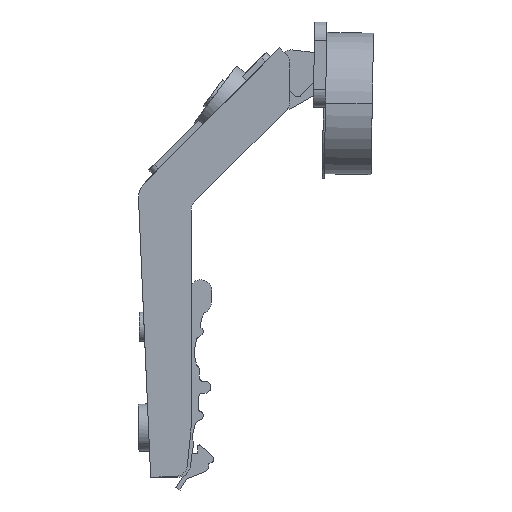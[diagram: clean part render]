
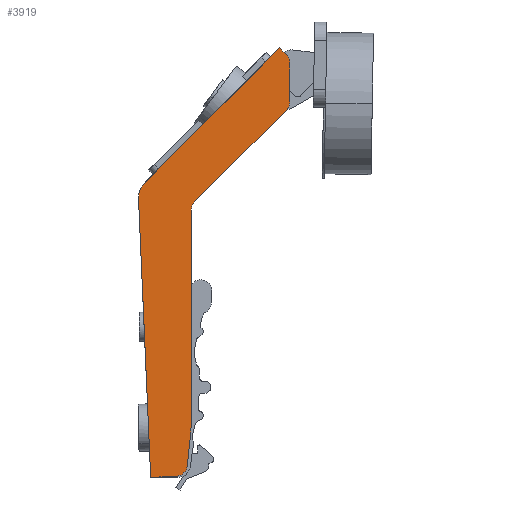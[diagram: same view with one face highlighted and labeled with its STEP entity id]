
A CAD part, left-side view. The second image highlights one B-rep face of the part: STEP entity #3919.
In plain terms, the highlighted planar face has unit normal (-1, 0, 0).
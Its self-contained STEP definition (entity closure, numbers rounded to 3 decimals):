
#138 = CARTESIAN_POINT ( 'NONE',  ( -8.8, -24.257, 47.877 ) ) ;
#146 = CARTESIAN_POINT ( 'NONE',  ( -8.8, 7.953, 24.324 ) ) ;
#148 = CARTESIAN_POINT ( 'NONE',  ( -8.8, 9.95, -44.556 ) ) ;
#176 = VECTOR ( 'NONE', #2760, 1000. ) ;
#189 = AXIS2_PLACEMENT_3D ( 'NONE', #5065, #4287, #2319 ) ;
#202 = DIRECTION ( 'NONE',  ( 0., -1., 0. ) ) ;
#219 = EDGE_CURVE ( 'NONE', #4203, #3314, #786, .T. ) ;
#245 = LINE ( 'NONE', #1821, #3601 ) ;
#299 = EDGE_LOOP ( 'NONE', ( #4960, #3948, #4281, #1999, #3706, #2968, #3711, #2140, #4628, #3186, #1162, #311, #1436, #4689 ) ) ;
#311 = ORIENTED_EDGE ( 'NONE', *, *, #2669, .F. ) ;
#322 = VERTEX_POINT ( 'NONE', #138 ) ;
#337 = CARTESIAN_POINT ( 'NONE',  ( -8.8, -23.379, 59.534 ) ) ;
#508 = DIRECTION ( 'NONE',  ( 0., -0.044, -0.999 ) ) ;
#523 = VECTOR ( 'NONE', #4443, 1000. ) ;
#652 = DIRECTION ( 'NONE',  ( 0., 0., 1. ) ) ;
#704 = DIRECTION ( 'NONE',  ( -1., 0., 0. ) ) ;
#725 = DIRECTION ( 'NONE',  ( 0., -0.707, 0.707 ) ) ;
#786 = LINE ( 'NONE', #5120, #176 ) ;
#795 = CARTESIAN_POINT ( 'NONE',  ( -8.8, 30., -31.046 ) ) ;
#898 = CARTESIAN_POINT ( 'NONE',  ( -8.8, 9.95, -44.556 ) ) ;
#978 = VERTEX_POINT ( 'NONE', #3853 ) ;
#1035 = CARTESIAN_POINT ( 'NONE',  ( -8.8, 0., 21.135 ) ) ;
#1049 = EDGE_CURVE ( 'NONE', #4593, #4674, #4056, .T. ) ;
#1062 = CARTESIAN_POINT ( 'NONE',  ( -8.8, 3.609, -44.28 ) ) ;
#1121 = EDGE_CURVE ( 'NONE', #3191, #4593, #2083, .T. ) ;
#1162 = ORIENTED_EDGE ( 'NONE', *, *, #2897, .T. ) ;
#1369 = VERTEX_POINT ( 'NONE', #2836 ) ;
#1376 = DIRECTION ( 'NONE',  ( 0., 0., 1. ) ) ;
#1436 = ORIENTED_EDGE ( 'NONE', *, *, #2456, .F. ) ;
#1464 = DIRECTION ( 'NONE',  ( -1., 0., 0. ) ) ;
#1521 = CARTESIAN_POINT ( 'NONE',  ( -8.8, 0., -31.046 ) ) ;
#1549 = FACE_OUTER_BOUND ( 'NONE', #299, .T. ) ;
#1632 = EDGE_CURVE ( 'NONE', #3992, #4203, #2344, .T. ) ;
#1670 = CARTESIAN_POINT ( 'NONE',  ( -8.8, 0.164, -34.182 ) ) ;
#1686 = CARTESIAN_POINT ( 'NONE',  ( -8.8, -21.783, 61.13 ) ) ;
#1746 = AXIS2_PLACEMENT_3D ( 'NONE', #3146, #3207, #2347 ) ;
#1748 = CARTESIAN_POINT ( 'NONE',  ( -8.8, 3.929, -41.297 ) ) ;
#1790 = LINE ( 'NONE', #4951, #2599 ) ;
#1821 = CARTESIAN_POINT ( 'NONE',  ( -8.8, 0.945, -41.61 ) ) ;
#1839 = AXIS2_PLACEMENT_3D ( 'NONE', #2610, #2128, #652 ) ;
#1851 = CIRCLE ( 'NONE', #3682, 3. ) ;
#1905 = PLANE ( 'NONE',  #189 ) ;
#1999 = ORIENTED_EDGE ( 'NONE', *, *, #3364, .T. ) ;
#2083 = LINE ( 'NONE', #898, #3429 ) ;
#2097 = VECTOR ( 'NONE', #4485, 1000. ) ;
#2127 = CARTESIAN_POINT ( 'NONE',  ( -8.8, 0., 22.377 ) ) ;
#2128 = DIRECTION ( 'NONE',  ( -1., 0., 0. ) ) ;
#2140 = ORIENTED_EDGE ( 'NONE', *, *, #4931, .T. ) ;
#2173 = CIRCLE ( 'NONE', #1839, 3. ) ;
#2178 = AXIS2_PLACEMENT_3D ( 'NONE', #1748, #2539, #1376 ) ;
#2234 = DIRECTION ( 'NONE',  ( 0., 0., -1. ) ) ;
#2319 = DIRECTION ( 'NONE',  ( 0., 0., 1. ) ) ;
#2344 = CIRCLE ( 'NONE', #2435, 30. ) ;
#2347 = DIRECTION ( 'NONE',  ( 0., 0., 1. ) ) ;
#2435 = AXIS2_PLACEMENT_3D ( 'NONE', #795, #1464, #4617 ) ;
#2456 = EDGE_CURVE ( 'NONE', #1369, #2793, #4353, .T. ) ;
#2539 = DIRECTION ( 'NONE',  ( -1., 0., 0. ) ) ;
#2549 = CARTESIAN_POINT ( 'NONE',  ( -8.8, 9.95, -44.556 ) ) ;
#2599 = VECTOR ( 'NONE', #2234, 1000. ) ;
#2610 = CARTESIAN_POINT ( 'NONE',  ( -8.8, -21.257, 57.413 ) ) ;
#2660 = CARTESIAN_POINT ( 'NONE',  ( -8.8, -0.879, 23.256 ) ) ;
#2669 = EDGE_CURVE ( 'NONE', #2793, #4142, #3696, .T. ) ;
#2722 = LINE ( 'NONE', #2127, #2097 ) ;
#2760 = DIRECTION ( 'NONE',  ( 0., 0., 1. ) ) ;
#2793 = VERTEX_POINT ( 'NONE', #1686 ) ;
#2836 = CARTESIAN_POINT ( 'NONE',  ( -8.8, 11.489, 27.859 ) ) ;
#2848 = VECTOR ( 'NONE', #725, 1000. ) ;
#2897 = EDGE_CURVE ( 'NONE', #978, #4142, #2173, .T. ) ;
#2968 = ORIENTED_EDGE ( 'NONE', *, *, #219, .T. ) ;
#3008 = CIRCLE ( 'NONE', #2178, 3. ) ;
#3084 = CARTESIAN_POINT ( 'NONE',  ( -8.8, -21.257, 47.877 ) ) ;
#3146 = CARTESIAN_POINT ( 'NONE',  ( -8.8, -3., 21.135 ) ) ;
#3159 = CIRCLE ( 'NONE', #1746, 3. ) ;
#3175 = EDGE_CURVE ( 'NONE', #4674, #5093, #3008, .T. ) ;
#3186 = ORIENTED_EDGE ( 'NONE', *, *, #4363, .F. ) ;
#3191 = VERTEX_POINT ( 'NONE', #4137 ) ;
#3207 = DIRECTION ( 'NONE',  ( 1., 0., 0. ) ) ;
#3314 = VERTEX_POINT ( 'NONE', #1035 ) ;
#3364 = EDGE_CURVE ( 'NONE', #5093, #3992, #245, .T. ) ;
#3412 = EDGE_CURVE ( 'NONE', #3314, #3699, #3159, .T. ) ;
#3419 = DIRECTION ( 'NONE',  ( 0., -0.105, 0.995 ) ) ;
#3429 = VECTOR ( 'NONE', #508, 1000. ) ;
#3542 = EDGE_CURVE ( 'NONE', #1369, #3191, #3985, .T. ) ;
#3601 = VECTOR ( 'NONE', #3419, 1000. ) ;
#3682 = AXIS2_PLACEMENT_3D ( 'NONE', #3084, #704, #4609 ) ;
#3696 = LINE ( 'NONE', #4360, #523 ) ;
#3699 = VERTEX_POINT ( 'NONE', #2660 ) ;
#3706 = ORIENTED_EDGE ( 'NONE', *, *, #1632, .T. ) ;
#3711 = ORIENTED_EDGE ( 'NONE', *, *, #3412, .T. ) ;
#3754 = DIRECTION ( 'NONE',  ( -1., 0., 0. ) ) ;
#3853 = CARTESIAN_POINT ( 'NONE',  ( -8.8, -24.257, 57.413 ) ) ;
#3919 = ADVANCED_FACE ( 'NONE', ( #1549 ), #1905, .T. ) ;
#3948 = ORIENTED_EDGE ( 'NONE', *, *, #1049, .T. ) ;
#3985 = CIRCLE ( 'NONE', #5050, 5. ) ;
#3992 = VERTEX_POINT ( 'NONE', #1670 ) ;
#4056 = LINE ( 'NONE', #148, #5056 ) ;
#4137 = CARTESIAN_POINT ( 'NONE',  ( -8.8, 12.948, 24.106 ) ) ;
#4142 = VERTEX_POINT ( 'NONE', #337 ) ;
#4203 = VERTEX_POINT ( 'NONE', #1521 ) ;
#4281 = ORIENTED_EDGE ( 'NONE', *, *, #3175, .T. ) ;
#4287 = DIRECTION ( 'NONE',  ( -1., 0., 0. ) ) ;
#4353 = LINE ( 'NONE', #4379, #2848 ) ;
#4360 = CARTESIAN_POINT ( 'NONE',  ( -8.8, -24.257, 58.655 ) ) ;
#4363 = EDGE_CURVE ( 'NONE', #978, #322, #1790, .T. ) ;
#4379 = CARTESIAN_POINT ( 'NONE',  ( -8.8, 19.674, 19.674 ) ) ;
#4405 = CARTESIAN_POINT ( 'NONE',  ( -8.8, -23.379, 45.756 ) ) ;
#4426 = DIRECTION ( 'NONE',  ( 0., -0.999, 0.044 ) ) ;
#4443 = DIRECTION ( 'NONE',  ( 0., -0.707, -0.707 ) ) ;
#4485 = DIRECTION ( 'NONE',  ( 0., -0.707, 0.707 ) ) ;
#4593 = VERTEX_POINT ( 'NONE', #2549 ) ;
#4609 = DIRECTION ( 'NONE',  ( 0., 0., 1. ) ) ;
#4617 = DIRECTION ( 'NONE',  ( 0., 0., 1. ) ) ;
#4628 = ORIENTED_EDGE ( 'NONE', *, *, #4641, .T. ) ;
#4629 = CARTESIAN_POINT ( 'NONE',  ( -8.8, 0.945, -41.61 ) ) ;
#4641 = EDGE_CURVE ( 'NONE', #4717, #322, #1851, .T. ) ;
#4674 = VERTEX_POINT ( 'NONE', #1062 ) ;
#4689 = ORIENTED_EDGE ( 'NONE', *, *, #3542, .T. ) ;
#4717 = VERTEX_POINT ( 'NONE', #4405 ) ;
#4931 = EDGE_CURVE ( 'NONE', #3699, #4717, #2722, .T. ) ;
#4951 = CARTESIAN_POINT ( 'NONE',  ( -8.8, -24.257, 58.655 ) ) ;
#4960 = ORIENTED_EDGE ( 'NONE', *, *, #1121, .T. ) ;
#5050 = AXIS2_PLACEMENT_3D ( 'NONE', #146, #3754, #202 ) ;
#5056 = VECTOR ( 'NONE', #4426, 1000. ) ;
#5065 = CARTESIAN_POINT ( 'NONE',  ( -8.8, 3.929, -40.747 ) ) ;
#5093 = VERTEX_POINT ( 'NONE', #4629 ) ;
#5120 = CARTESIAN_POINT ( 'NONE',  ( -8.8, 0., -30.496 ) ) ;
